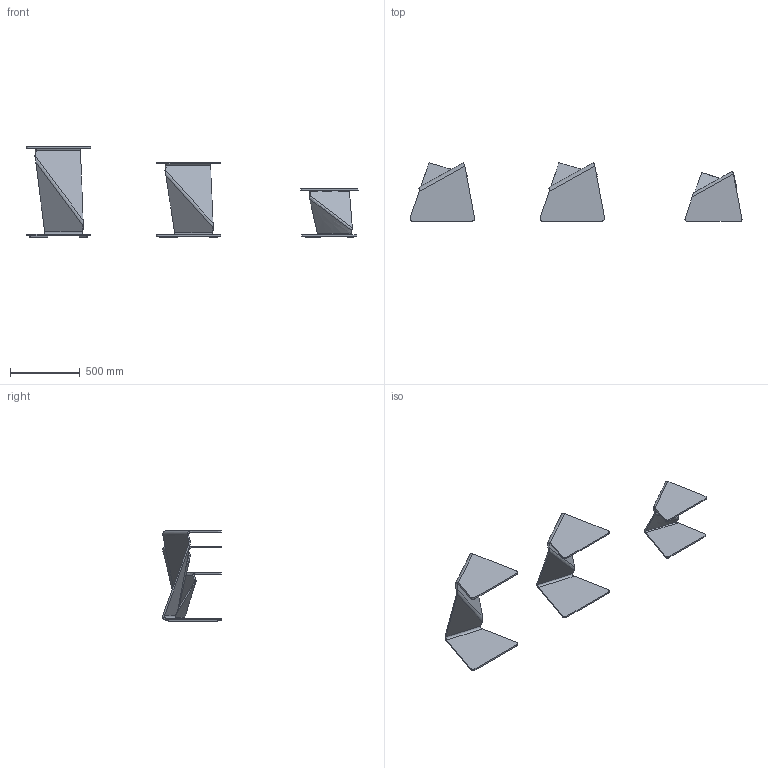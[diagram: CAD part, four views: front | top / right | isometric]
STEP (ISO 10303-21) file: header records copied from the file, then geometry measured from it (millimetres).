
FILE_DESCRIPTION(/* description */ (''),/* implementation_level */ '2;1');
FILE_NAME(/* name */ 'SIGMY_~1',/* time_stamp */ '2021-07-13T11:22:34+02:00',/* author */ (''),/* organization */ (''),/* preprocessor_version */ 'ST-DEVELOPER v16.5',/* originating_system */ '',/* authorisation */ '');
FILE_SCHEMA (('AUTOMOTIVE_DESIGN'));
Length unit declared in the file: millimetre
Products named in the file (1): Document
Bounding box: 2384.88 x 421.64 x 650.37 mm (x, y, z)
Volume: 13842684.5 mm3; surface area: 2617698.6 mm2
Topology: 9 solids, 9 shells, 214 faces, 460 edges, 264 vertices
Faces by surface type: bspline 202, plane 12
Entity records: 16914 total; most frequent: CARTESIAN_POINT 13860, ORIENTED_EDGE 920, EDGE_CURVE 460, B_SPLINE_CURVE_WITH_KNOTS 424, VERTEX_POINT 264, ADVANCED_FACE 214, FACE_OUTER_BOUND 214, EDGE_LOOP 214
